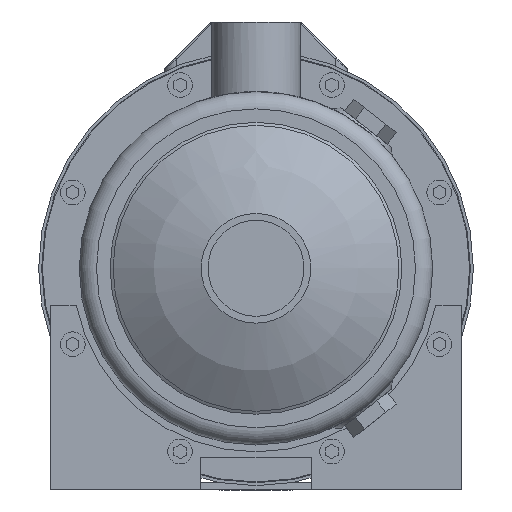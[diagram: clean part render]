
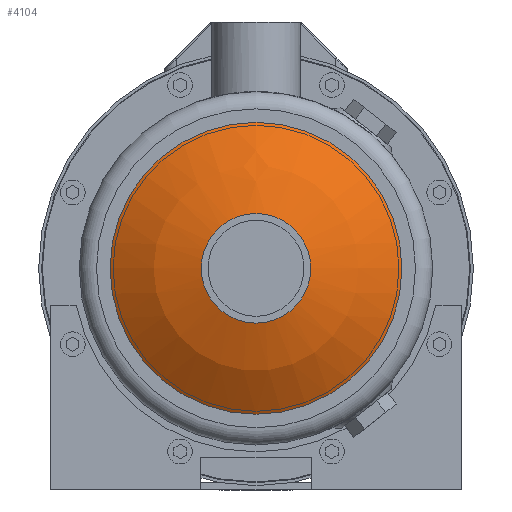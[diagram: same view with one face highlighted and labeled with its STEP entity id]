
A CAD part, left-side view. The second image highlights one B-rep face of the part: STEP entity #4104.
In plain terms, the highlighted spherical face has radius 100 mm.
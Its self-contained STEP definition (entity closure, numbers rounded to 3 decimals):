
#63=SPHERICAL_SURFACE('',#5494,100.);
#950=ORIENTED_EDGE('',*,*,#2059,.T.);
#951=ORIENTED_EDGE('',*,*,#2058,.F.);
#2058=EDGE_CURVE('',#2617,#2617,#3000,.T.);
#2059=EDGE_CURVE('',#2618,#2618,#3001,.T.);
#2617=VERTEX_POINT('',#7339);
#2618=VERTEX_POINT('',#7342);
#3000=CIRCLE('',#5493,22.25);
#3001=CIRCLE('',#5495,59.25);
#3186=EDGE_LOOP('',(#950));
#3187=EDGE_LOOP('',(#951));
#3571=FACE_BOUND('',#3186,.T.);
#3572=FACE_BOUND('',#3187,.T.);
#4104=ADVANCED_FACE('',(#3571,#3572),#63,.T.);
#5493=AXIS2_PLACEMENT_3D('',#7338,#5996,#5997);
#5494=AXIS2_PLACEMENT_3D('',#7340,#5998,#5999);
#5495=AXIS2_PLACEMENT_3D('',#7341,#6000,#6001);
#5996=DIRECTION('',(-1.,0.,0.));
#5997=DIRECTION('',(0.,0.,1.));
#5998=DIRECTION('',(-1.,0.,0.));
#5999=DIRECTION('',(0.,0.,1.));
#6000=DIRECTION('',(-1.,0.,0.));
#6001=DIRECTION('',(0.,0.,1.));
#7338=CARTESIAN_POINT('',(-43.293,0.,0.));
#7339=CARTESIAN_POINT('',(-43.293,0.,22.25));
#7340=CARTESIAN_POINT('',(54.2,0.,0.));
#7341=CARTESIAN_POINT('',(-26.357,0.,0.));
#7342=CARTESIAN_POINT('',(-26.357,0.,59.25));
